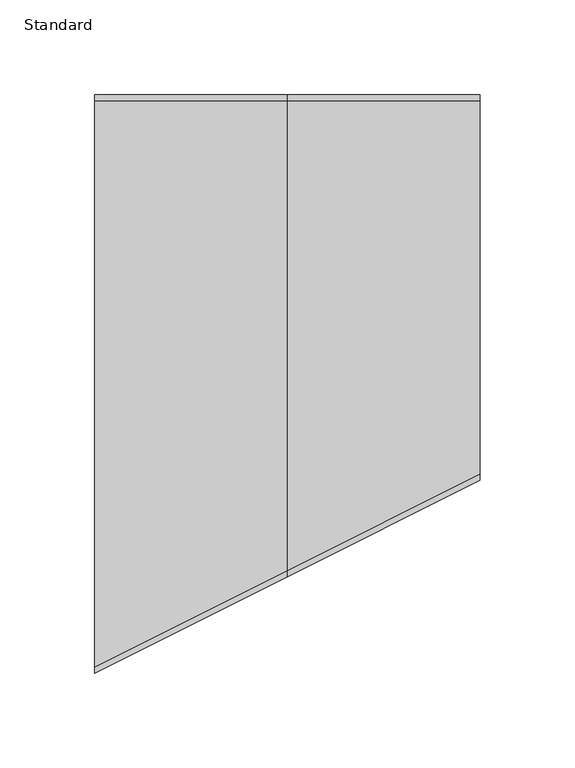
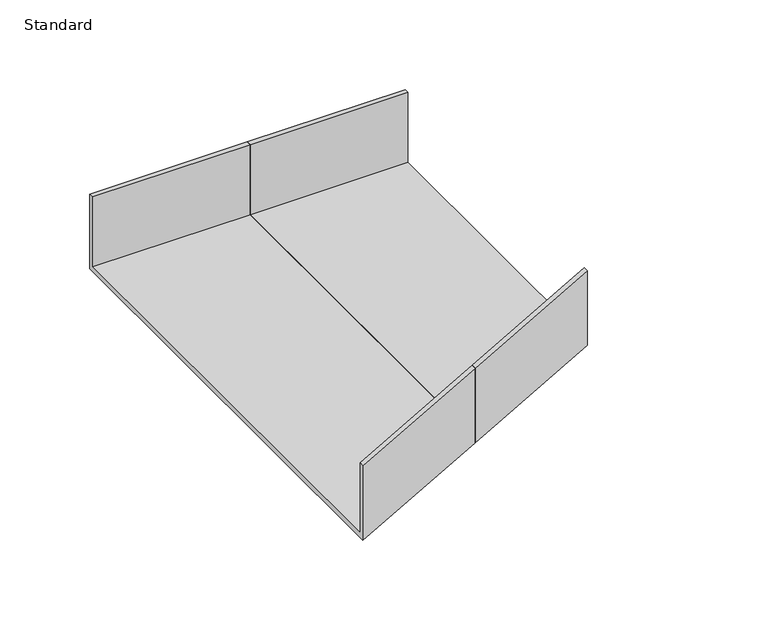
"""IFC4 building model written with IfcOpenShell, lengths in millimetres: cable carrier fitting geometry, Reducer-Cablofil-Wire_Mesh_Cable_Tray : Standard."""

from ifc_helpers import new_model, si_unit, origin, place, context, project, spatial, faceted_brep, source, transform, mapped, element, save


def standard_1d63030c(model_context):
    return source(origin(), model_context, "Body", "Brep", [
        faceted_brep([(101.6, -47.625, 25.4), (101.6, -50.8, 25.4), (101.6, -50.8, -25.4), (101.6, 152.4, -25.4), (101.6, 152.4, 25.4), (101.6, 149.225, 25.4), (101.6, 149.225, -22.225), (101.6, -47.625, -22.225), (0.0, -98.425, 25.4), (0.0, -98.425, -22.225), (0.0, 149.225, -22.225), (0.0, 149.225, 25.4), (0.0, 152.4, 25.4), (0.0, 152.4, -25.4), (0.0, -101.6, -25.4), (0.0, -101.6, 25.4)], [[[0, 1, 2, 3, 4, 5, 6, 7]], [[8, 9, 10, 11, 12, 13, 14, 15]], [[8, 15, 1, 0]], [[15, 14, 2, 1]], [[14, 13, 3, 2]], [[13, 12, 4, 3]], [[12, 11, 5, 4]], [[11, 10, 6, 5]], [[10, 9, 7, 6]], [[9, 8, 0, 7]]]),
        faceted_brep([(0.0, -98.425, 25.4), (0.0, -101.6, 25.4), (0.0, -101.6, -25.4), (0.0, 152.4, -25.4), (0.0, 152.4, 25.4), (0.0, 149.225, 25.4), (0.0, 149.225, -22.225), (0.0, -98.425, -22.225), (-101.6, -149.225, 25.4), (-101.6, -149.225, -22.225), (-101.6, 149.225, -22.225), (-101.6, 149.225, 25.4), (-101.6, 152.4, 25.4), (-101.6, 152.4, -25.4), (-101.6, -152.4, -25.4), (-101.6, -152.4, 25.4)], [[[0, 1, 2, 3, 4, 5, 6, 7]], [[8, 9, 10, 11, 12, 13, 14, 15]], [[8, 15, 1, 0]], [[15, 14, 2, 1]], [[14, 13, 3, 2]], [[13, 12, 4, 3]], [[12, 11, 5, 4]], [[11, 10, 6, 5]], [[10, 9, 7, 6]], [[9, 8, 0, 7]]]),
    ])


if __name__ == "__main__":
    model = new_model("IFC4")
    model_context = context("Model", 3, world=origin())
    ifc_project = project(units=[si_unit("LENGTHUNIT", "METRE", prefix="MILLI")], contexts=[model_context])
    site = spatial("IfcSite", under=ifc_project)
    building = spatial("IfcBuilding", under=site)
    placement = place(None, origin())
    standard_shape = standard_1d63030c(model_context)
    element("IfcCableCarrierFitting", 1, ObjectType="Reducer-Cablofil-Wire_Mesh_Cable_Tray : Standard", at=placement, inside=building, context=model_context, shape_type="MappedRepresentation", body=[
        mapped(standard_shape, transform((0.0, 0.0, 0.0), x_axis=(1.0, 0.0, 0.0), y_axis=(0.0, 1.0, 0.0), z_axis=(0.0, 0.0, 1.0))),
    ])
    save(model, "model.ifc")
